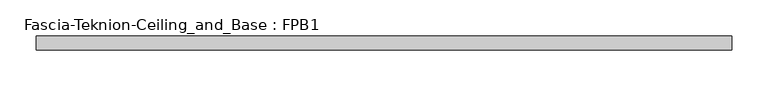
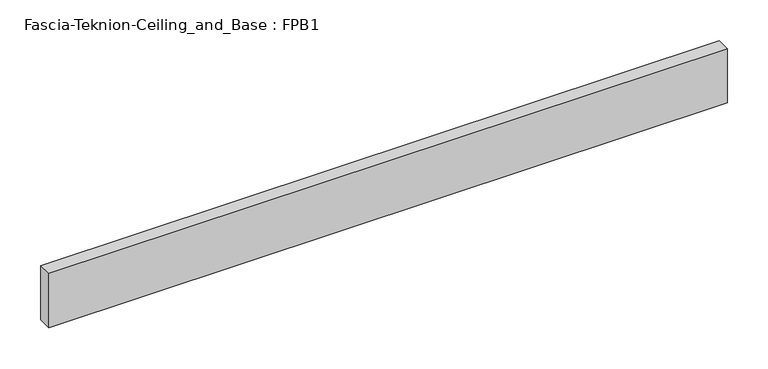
"""IFC4 building model written with IfcOpenShell, lengths in millimetres: proxy geometry, Fascia-Teknion-Ceiling_and_Base : FPB1."""

from ifc_helpers import new_model, si_unit, origin, origin_with_axes, place, context, project, spatial, polyline, outline, extrude, source, transform, mapped, element, save


def fascia_teknion_ceiling_and_base_fpb1_db20a659(model_context):
    return source(origin(), model_context, "Body", "SweptSolid", [
        extrude(outline(polyline([(479.4305563, 0.0), (-479.4305562, 0.0), (-479.4305562, 19.05), (479.4305563, 19.05), (479.4305563, 0.0)])), origin_with_axes(), (0.0, 0.0, 1.0), 81.28),
    ])


if __name__ == "__main__":
    model = new_model("IFC4")
    model_context = context("Model", 3, world=origin())
    ifc_project = project(units=[si_unit("LENGTHUNIT", "METRE", prefix="MILLI")], contexts=[model_context])
    site = spatial("IfcSite", under=ifc_project)
    building = spatial("IfcBuilding", under=site)
    placement = place(None, origin())
    fascia_teknion_ceiling_and_base_fpb1_shape = fascia_teknion_ceiling_and_base_fpb1_db20a659(model_context)
    element("IfcBuildingElementProxy", 1, Name="Fascia-Teknion-Ceiling_and_Base : FPB1", ObjectType="Fascia-Teknion-Ceiling_and_Base : FPB1", at=placement, inside=building, context=model_context, shape_type="MappedRepresentation", body=[
        mapped(fascia_teknion_ceiling_and_base_fpb1_shape, transform((0.0, 0.0, 0.0), x_axis=(1.0, 0.0, 0.0), y_axis=(0.0, 1.0, 0.0), z_axis=(0.0, 0.0, 1.0))),
    ])
    save(model, "model.ifc")
